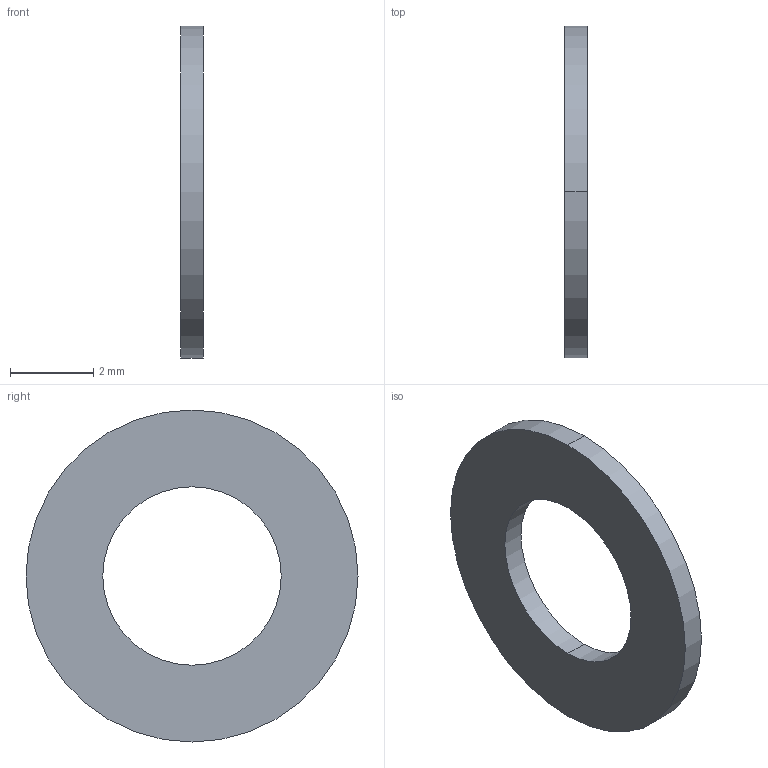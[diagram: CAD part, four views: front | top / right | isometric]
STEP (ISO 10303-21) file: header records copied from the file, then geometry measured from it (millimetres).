
FILE_DESCRIPTION(('CoCreate Modeling STEP Export'),'2;1');
FILE_NAME('Test1.stp','2012-03-06T12:54:05',(''),(''),'CoCreate Modeling STEP processor for AP214 (Solid Model)','CoCreate Modeling 17.0B 12-Nov-2010 (C) Parametric Technology GmbH','');
FILE_SCHEMA(('AUTOMOTIVE_DESIGN { 1 0 10303 214 1 1 1 1 }'));
Length unit declared in the file: millimetre
Products named in the file (1): Scheibe
Bounding box: 0.55 x 8 x 8 mm (x, y, z)
Volume: 19.7 mm3; surface area: 92.7 mm2
Topology: 1 solids, 1 shells, 6 faces, 12 edges, 8 vertices
Faces by surface type: cylinder 4, plane 2
Entity records: 218 total; most frequent: DIRECTION 26, ORIENTED_EDGE 24, CARTESIAN_POINT 23, EDGE_CURVE 12, AXIS2_PLACEMENT_3D 11, VERTEX_POINT 8, EDGE_LOOP 8, COLOUR_RGB 7
